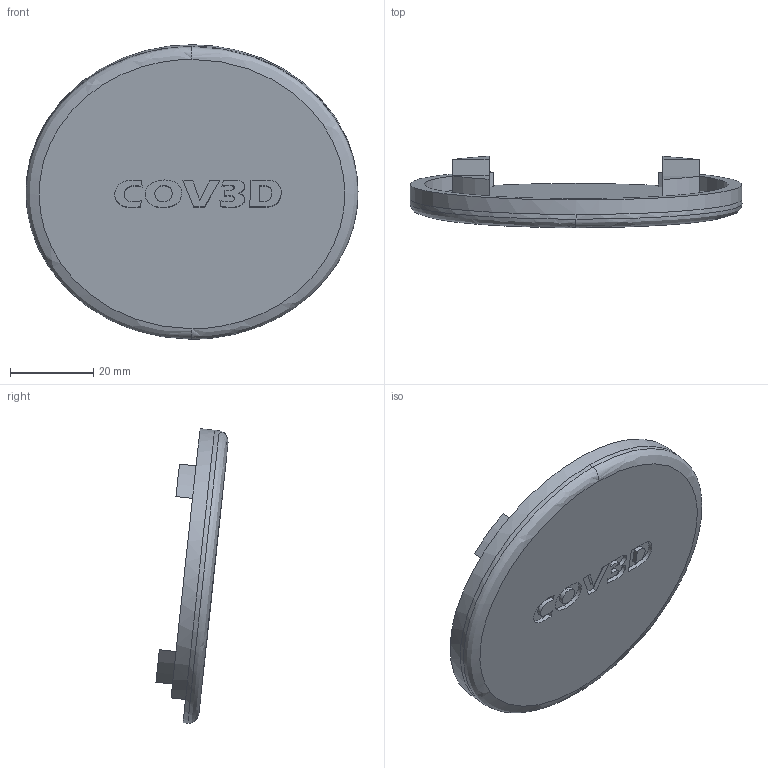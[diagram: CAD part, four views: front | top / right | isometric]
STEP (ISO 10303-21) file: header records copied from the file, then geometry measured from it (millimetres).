
FILE_DESCRIPTION(/* description */ (''),/* implementation_level */ '2;1');
FILE_NAME(/* name */ 'XL-WID~1',/* time_stamp */ '2020-04-10T21:51:28+03:00',/* author */ (''),/* organization */ (''),/* preprocessor_version */ 'ST-DEVELOPER v16.5',/* originating_system */ '',/* authorisation */ '');
FILE_SCHEMA (('AUTOMOTIVE_DESIGN'));
Length unit declared in the file: millimetre
Products named in the file (1): Document
Bounding box: 79.63 x 17.28 x 70.65 mm (x, y, z)
Volume: 18166.1 mm3; surface area: 11723.7 mm2
Topology: 1 solids, 1 shells, 67 faces, 158 edges, 104 vertices
Faces by surface type: bspline 44, plane 23
Entity records: 2836 total; most frequent: CARTESIAN_POINT 1768, ORIENTED_EDGE 316, EDGE_CURVE 158, B_SPLINE_CURVE_WITH_KNOTS 131, VERTEX_POINT 104, EDGE_LOOP 78, ADVANCED_FACE 67, FACE_OUTER_BOUND 67
